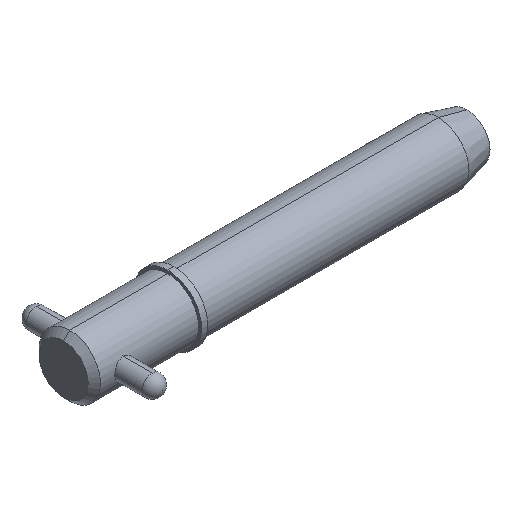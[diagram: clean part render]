
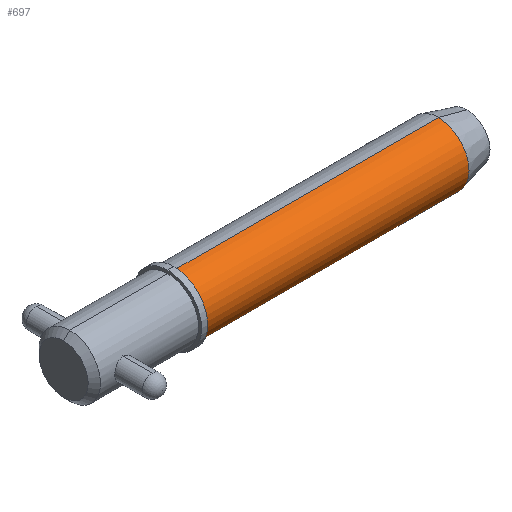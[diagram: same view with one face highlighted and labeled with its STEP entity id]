
A CAD part, isometric view. The second image highlights one B-rep face of the part: STEP entity #697.
In plain terms, the highlighted cylindrical face has radius 7.145 mm (diameter 14.29 mm), a partial arc.
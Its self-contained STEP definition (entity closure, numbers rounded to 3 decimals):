
#20 = AXIS2_PLACEMENT_3D ( 'NONE', #927, #579, #757 ) ;
#115 = DIRECTION ( 'NONE',  ( 1., 0., 0. ) ) ;
#133 = CARTESIAN_POINT ( 'NONE',  ( 0., 0., -7.145 ) ) ;
#153 = ORIENTED_EDGE ( 'NONE', *, *, #723, .F. ) ;
#164 = EDGE_CURVE ( 'NONE', #226, #898, #268, .T. ) ;
#176 = CIRCLE ( 'NONE', #20, 7.145 ) ;
#223 = DIRECTION ( 'NONE',  ( 1., 0., 0. ) ) ;
#226 = VERTEX_POINT ( 'NONE', #597 ) ;
#255 = AXIS2_PLACEMENT_3D ( 'NONE', #635, #223, #548 ) ;
#263 = CARTESIAN_POINT ( 'NONE',  ( 0., 0., 7.145 ) ) ;
#268 = LINE ( 'NONE', #263, #803 ) ;
#297 = EDGE_CURVE ( 'NONE', #226, #880, #677, .T. ) ;
#308 = ORIENTED_EDGE ( 'NONE', *, *, #297, .T. ) ;
#324 = VERTEX_POINT ( 'NONE', #1019 ) ;
#326 = EDGE_CURVE ( 'NONE', #880, #324, #949, .T. ) ;
#420 = ORIENTED_EDGE ( 'NONE', *, *, #164, .F. ) ;
#438 = EDGE_LOOP ( 'NONE', ( #420, #308, #684, #153 ) ) ;
#477 = CARTESIAN_POINT ( 'NONE',  ( 25.7, 0., -7.145 ) ) ;
#486 = AXIS2_PLACEMENT_3D ( 'NONE', #507, #115, #512 ) ;
#507 = CARTESIAN_POINT ( 'NONE',  ( 0., 0., 0. ) ) ;
#512 = DIRECTION ( 'NONE',  ( 0., 0., -1. ) ) ;
#548 = DIRECTION ( 'NONE',  ( 0., 0., -1. ) ) ;
#579 = DIRECTION ( 'NONE',  ( 1., 0., 0. ) ) ;
#597 = CARTESIAN_POINT ( 'NONE',  ( 25.7, 0., 7.145 ) ) ;
#635 = CARTESIAN_POINT ( 'NONE',  ( 25.7, 0., 0. ) ) ;
#641 = CARTESIAN_POINT ( 'NONE',  ( 87.284, 0., 7.145 ) ) ;
#677 = CIRCLE ( 'NONE', #255, 7.145 ) ;
#684 = ORIENTED_EDGE ( 'NONE', *, *, #326, .T. ) ;
#697 = ADVANCED_FACE ( 'NONE', ( #931 ), #843, .T. ) ;
#723 = EDGE_CURVE ( 'NONE', #898, #324, #176, .T. ) ;
#757 = DIRECTION ( 'NONE',  ( 0., 0., -1. ) ) ;
#758 = DIRECTION ( 'NONE',  ( 1., 0., 0. ) ) ;
#803 = VECTOR ( 'NONE', #758, 1000. ) ;
#843 = CYLINDRICAL_SURFACE ( 'NONE', #486, 7.145 ) ;
#878 = DIRECTION ( 'NONE',  ( 1., 0., 0. ) ) ;
#880 = VERTEX_POINT ( 'NONE', #477 ) ;
#898 = VERTEX_POINT ( 'NONE', #641 ) ;
#927 = CARTESIAN_POINT ( 'NONE',  ( 87.284, 0., 0. ) ) ;
#931 = FACE_OUTER_BOUND ( 'NONE', #438, .T. ) ;
#949 = LINE ( 'NONE', #133, #971 ) ;
#971 = VECTOR ( 'NONE', #878, 1000. ) ;
#1019 = CARTESIAN_POINT ( 'NONE',  ( 87.284, 0., -7.145 ) ) ;
